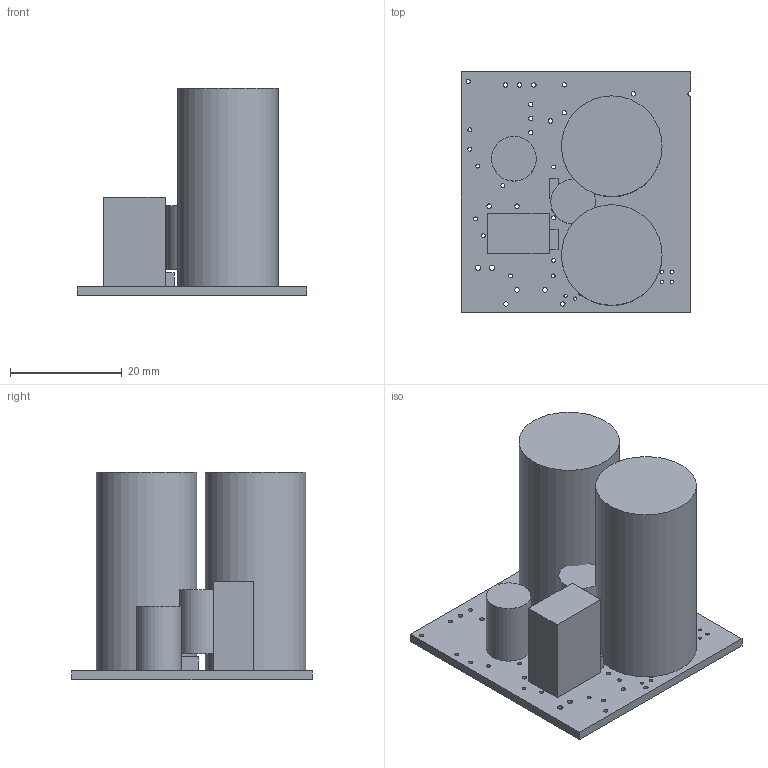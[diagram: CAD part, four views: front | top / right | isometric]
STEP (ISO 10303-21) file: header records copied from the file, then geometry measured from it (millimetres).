
FILE_DESCRIPTION(('Open CASCADE Model'),'2;1');
FILE_NAME('Open CASCADE Shape Model','2026-11-13T21:04:36',('Author'),( 'Open CASCADE'),'Open CASCADE STEP processor 7.8','Open CASCADE 7.8' ,'Unknown');
FILE_SCHEMA(('AUTOMOTIVE_DESIGN { 1 0 10303 214 1 1 1 1 }'));
Length unit declared in the file: millimetre
Products named in the file (9): C22_SolidWorks_context_mm; PCB_crop_top_Z0_thickness_1p6; C17_body_height_11.5mm; C18_body_height_16mm; C21_body_height_35.5mm; C23_body_height_35.5mm; R39_body_height_2.5mm; R42_body_height_2.5mm; C22_UKL_47u_50V_body_bottom_Z3
Assembly tree (8 placements, depth 2):
  C22_SolidWorks_context_mm
    PCB_crop_top_Z0_thickness_1p6
    C17_body_height_11.5mm
    C18_body_height_16mm
    C21_body_height_35.5mm
    C23_body_height_35.5mm
    R39_body_height_2.5mm
    R42_body_height_2.5mm
    C22_UKL_47u_50V_body_bottom_Z3
Bounding box: 41 x 43 x 37.1 mm (x, y, z)
Volume: 23299.9 mm3; surface area: 10570.7 mm2
Topology: 8 solids, 8 shells, 89 faces, 219 edges, 146 vertices
Faces by surface type: cylinder 56, plane 33
Full cylindrical faces by diameter (mm): 0.3 x1, 0.6 x9, 0.7 x12, 0.8 x23, 1 x2, 1.2 x4, 8 x2, 18 x2
Entity records: 6248 total; most frequent: CARTESIAN_POINT 1523, DIRECTION 858, ORIENTED_EDGE 438, PCURVE 438, DEFINITIONAL_REPRESENTATION 438, LINE 429, VECTOR 429, EDGE_CURVE 219
